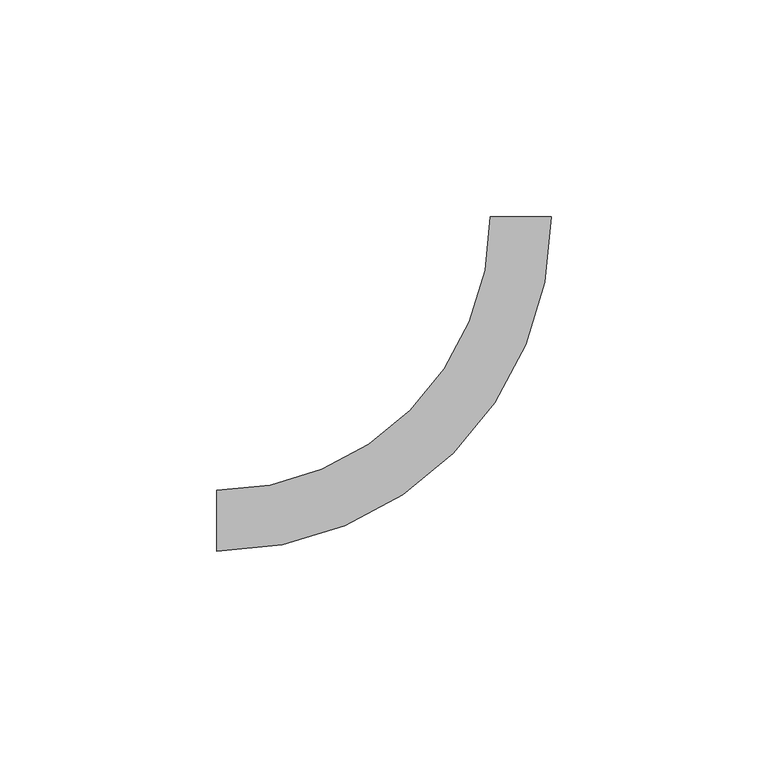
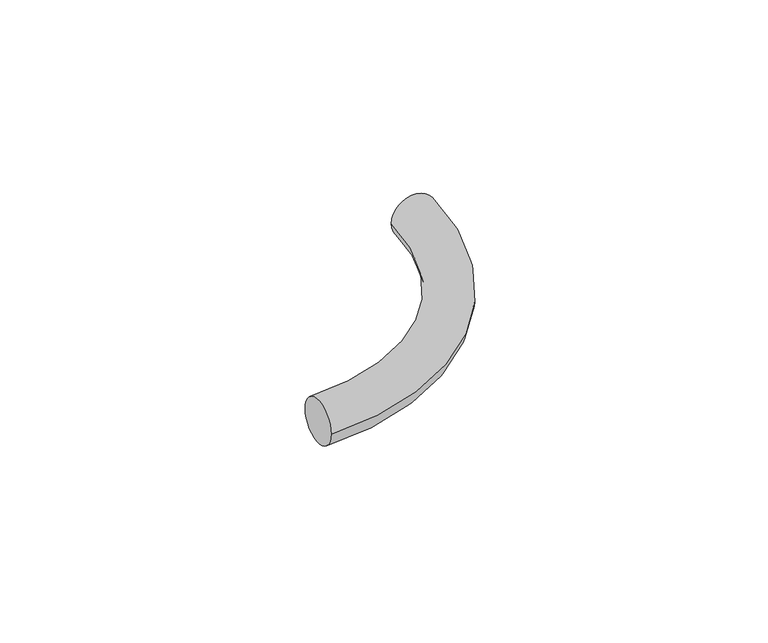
"""IFC4 building model written with IfcOpenShell, lengths in millimetres: pipe fitting geometry, KAN-therm Push rura elastyczna : rura wielowarstwowa PE-Xc/Al/PE-HD Platinum."""

from ifc_helpers import new_model, si_unit, point, frame, origin, place, context, project, spatial, circle_curve, ellipse_curve, trimmed, source, transform, mapped, element, save
from ifc_brep_helpers import plane_surface, revolved_surface, advanced_brep


def pipe_fitting_30f2cc5d(model_context):
    return source(origin(), model_context, "Body", "AdvancedBrep", [
        advanced_brep(
        [(-70.0, -7.0, 0.0), (-70.0, 7.0, 0.0), (7.0, 70.0, 0.0), (-7.0, 70.0, 0.0)],
        [
            (0, 1, circle_curve(frame((-70.0, 0.0, 0.0), z_axis=(-1.0, 0.0, 0.0), x_axis=(0.0, 1.0, 0.0)), 7.0)),
            (1, 0, circle_curve(frame((-70.0, 0.0, 0.0), z_axis=(-1.0, 0.0, 0.0), x_axis=(0.0, 1.0, 0.0)), 7.0)),
            (2, 3, circle_curve(frame((0.0, 70.0, 0.0), z_axis=(0.0, 1.0, 0.0), x_axis=(-1.0, 0.0, 0.0)), 7.0)),
            (3, 2, circle_curve(frame((0.0, 70.0, 0.0), z_axis=(0.0, 1.0, 0.0), x_axis=(-1.0, 0.0, 0.0)), 7.0)),
            (3, 1, circle_curve(frame((-70.0, 70.0, 0.0), z_axis=(0.0, 0.0, -1.0), x_axis=(0.0, -1.0, 0.0)), 63.0)),
            (0, 2, circle_curve(frame((-70.0, 70.0, 0.0), z_axis=(0.0, 0.0, 1.0), x_axis=(0.0, -1.0, 0.0)), 77.0)),
        ],
        [
            plane_surface(frame((-70.0, 0.0, 0.0), z_axis=(-1.0, 0.0, 0.0), x_axis=(0.0, 0.0, 1.0))),
            plane_surface(frame((0.0, 70.0, 0.0), z_axis=(0.0, 1.0, 0.0), x_axis=(0.0, 0.0, 1.0))),
            revolved_surface(trimmed(ellipse_curve(frame((-70.0, 0.0, 0.0), z_axis=(-1.0, 0.0, 0.0), x_axis=(0.0, 1.0, 0.0)), 7.0, 7.0), [point((-70.0, -7.0, 0.0))], [point((-70.0, 7.0, 0.0))], True, "CARTESIAN"), (-70.0, 70.0, 0.0), (0.0, 0.0, 1.0)),
            revolved_surface(trimmed(ellipse_curve(frame((-70.0, 0.0, 0.0), z_axis=(-1.0, 0.0, 0.0), x_axis=(0.0, 1.0, 0.0)), 7.0, 7.0), [point((-70.0, 7.0, 0.0))], [point((-70.0, -7.0, 0.0))], True, "CARTESIAN"), (-70.0, 70.0, 0.0), (0.0, 0.0, 1.0)),
        ],
        [
            (0, [[1, 2]]),
            (1, [[3, 4]]),
            (2, [[5, -1, 6, -4]]),
            (3, [[-6, -2, -5, -3]]),
        ],
    ),
    ])


if __name__ == "__main__":
    model = new_model("IFC4")
    model_context = context("Model", 3, world=origin())
    ifc_project = project(units=[si_unit("LENGTHUNIT", "METRE", prefix="MILLI")], contexts=[model_context])
    site = spatial("IfcSite", under=ifc_project)
    building = spatial("IfcBuilding", under=site)
    placement = place(None, origin())
    pipe_fitting_shape = pipe_fitting_30f2cc5d(model_context)
    element("IfcPipeFitting", 1, ObjectType="KAN-therm Push rura elastyczna : rura wielowarstwowa PE-Xc/Al/PE-HD Platinum", at=placement, inside=building, context=model_context, shape_type="MappedRepresentation", body=[
        mapped(pipe_fitting_shape, transform((0.0, 0.0, 0.0), x_axis=(1.0, 0.0, 0.0), y_axis=(0.0, 1.0, 0.0), z_axis=(0.0, 0.0, 1.0))),
    ])
    save(model, "model.ifc")
